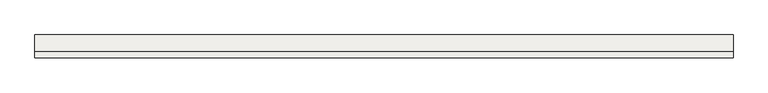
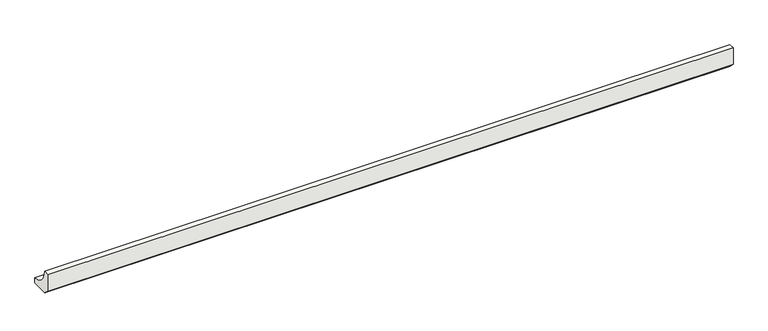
"""IFC4 building model written with IfcOpenShell, lengths in millimetres: slab geometry, ROSA GRES_188 : Pieza 188_Serena_Ocra_Anti-Slip."""

from ifc_helpers import new_model, si_unit, point, frame, frame_2d, origin, place, context, project, spatial, polyline, circle_curve, trimmed, segment, composite_curve, outline, extrude, source, transform, mapped, element, save


def slab_eddf93c6(model_context):
    return source(origin(), model_context, "Body", "SweptSolid", [
        extrude(outline(composite_curve([segment(polyline([(0.0, 8.7114978), (0.0, 40.0), (9.9734114, 40.0)]), True, "CONTINUOUS"), segment(trimmed(circle_curve(frame_2d((39.9955547, 39.9955547)), 30.0221435), [point((9.9734114, 40.0))], [point((40.0, 9.9734114))], True, "CARTESIAN"), True, "CONTINUOUS"), segment(polyline([(40.0, 9.9734114), (40.0, 0.0), (8.7114978, 0.0), (0.0, 8.7114978)]), True, "CONTINUOUS")], self_intersect=False)), frame((0.0, 0.0, 0.0), z_axis=(1.0, 0.0, 0.0), x_axis=(0.0, 1.0, 0.0)), (0.0, 0.0, 1.0), 1227.1783233),
    ])


if __name__ == "__main__":
    model = new_model("IFC4")
    model_context = context("Model", 3, world=origin())
    ifc_project = project(units=[si_unit("LENGTHUNIT", "METRE", prefix="MILLI")], contexts=[model_context])
    site = spatial("IfcSite", under=ifc_project)
    building = spatial("IfcBuilding", under=site)
    placement = place(None, origin())
    slab_shape = slab_eddf93c6(model_context)
    element("IfcSlab", 1, ObjectType="ROSA GRES_188 : Pieza 188_Serena_Ocra_Anti-Slip", at=placement, inside=building, context=model_context, shape_type="MappedRepresentation", body=[
        mapped(slab_shape, transform((0.0, 0.0, 0.0), x_axis=(1.0, 0.0, 0.0), y_axis=(0.0, 1.0, 0.0), z_axis=(0.0, 0.0, 1.0))),
    ])
    save(model, "model.ifc")
